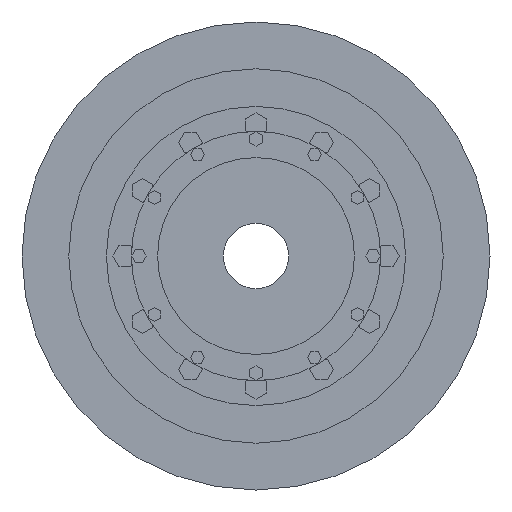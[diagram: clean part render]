
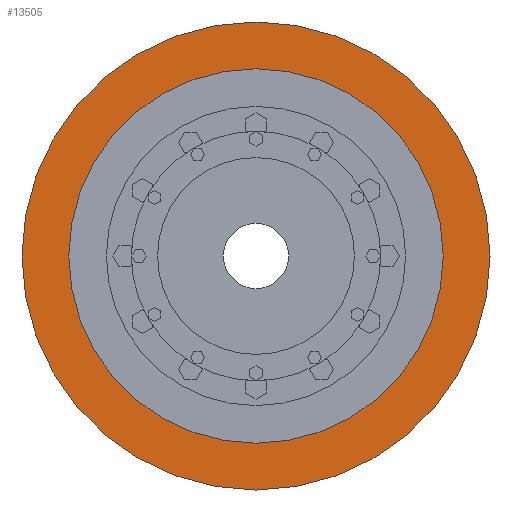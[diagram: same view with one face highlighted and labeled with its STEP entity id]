
A CAD part, left-side view. The second image highlights one B-rep face of the part: STEP entity #13505.
In plain terms, the highlighted planar face has unit normal (-1, 0, 0).
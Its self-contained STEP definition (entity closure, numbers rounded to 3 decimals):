
#13302=CARTESIAN_POINT('',(-6.35,0.,0.));
#13303=DIRECTION('',(-1.,0.,0.));
#13304=DIRECTION('',(0.,1.,0.));
#13305=AXIS2_PLACEMENT_3D('',#13302,#13303,#13304);
#13307=CARTESIAN_POINT('',(-6.35,0.,0.));
#13308=DIRECTION('',(1.,0.,0.));
#13309=DIRECTION('',(0.,1.,0.));
#13310=AXIS2_PLACEMENT_3D('',#13307,#13308,#13309);
#13312=CARTESIAN_POINT('',(-6.35,0.,0.));
#13313=DIRECTION('',(1.,0.,0.));
#13314=DIRECTION('',(0.,1.,0.));
#13315=AXIS2_PLACEMENT_3D('',#13312,#13313,#13314);
#13325=CARTESIAN_POINT('',(-6.35,0.,0.));
#13326=DIRECTION('',(-1.,0.,0.));
#13327=DIRECTION('',(0.,1.,0.));
#13328=AXIS2_PLACEMENT_3D('',#13325,#13326,#13327);
#13348=CARTESIAN_POINT('',(-6.35,244.,0.));
#13350=VERTEX_POINT('',#13348);
#13360=CARTESIAN_POINT('',(-6.35,-244.,0.));
#13362=VERTEX_POINT('',#13360);
#13365=CARTESIAN_POINT('',(-6.35,305.,0.));
#13367=VERTEX_POINT('',#13365);
#13369=CARTESIAN_POINT('',(-6.35,-305.,0.));
#13371=VERTEX_POINT('',#13369);
#13490=CARTESIAN_POINT('',(-6.35,0.,0.));
#13491=DIRECTION('',(1.,0.,0.));
#13492=DIRECTION('',(0.,-1.,0.));
#13493=AXIS2_PLACEMENT_3D('',#13490,#13491,#13492);
#13494=PLANE('',#13493);
#13495=ORIENTED_EDGE('',*,*,#13483,.F.);
#13496=ORIENTED_EDGE('',*,*,#13472,.T.);
#13497=EDGE_LOOP('',(#13495,#13496));
#13498=FACE_OUTER_BOUND('',#13497,.F.);
#13500=ORIENTED_EDGE('',*,*,#13499,.F.);
#13502=ORIENTED_EDGE('',*,*,#13501,.T.);
#13503=EDGE_LOOP('',(#13500,#13502));
#13504=FACE_BOUND('',#13503,.F.);
#13505=ADVANCED_FACE('',(#13498,#13504),#13494,.F.);
#13306=CIRCLE('',#13305,305.);
#13311=CIRCLE('',#13310,305.);
#13316=CIRCLE('',#13315,244.);
#13329=CIRCLE('',#13328,244.);
#13472=EDGE_CURVE('',#13367,#13371,#13311,.T.);
#13483=EDGE_CURVE('',#13367,#13371,#13306,.T.);
#13499=EDGE_CURVE('',#13350,#13362,#13316,.T.);
#13501=EDGE_CURVE('',#13350,#13362,#13329,.T.);
